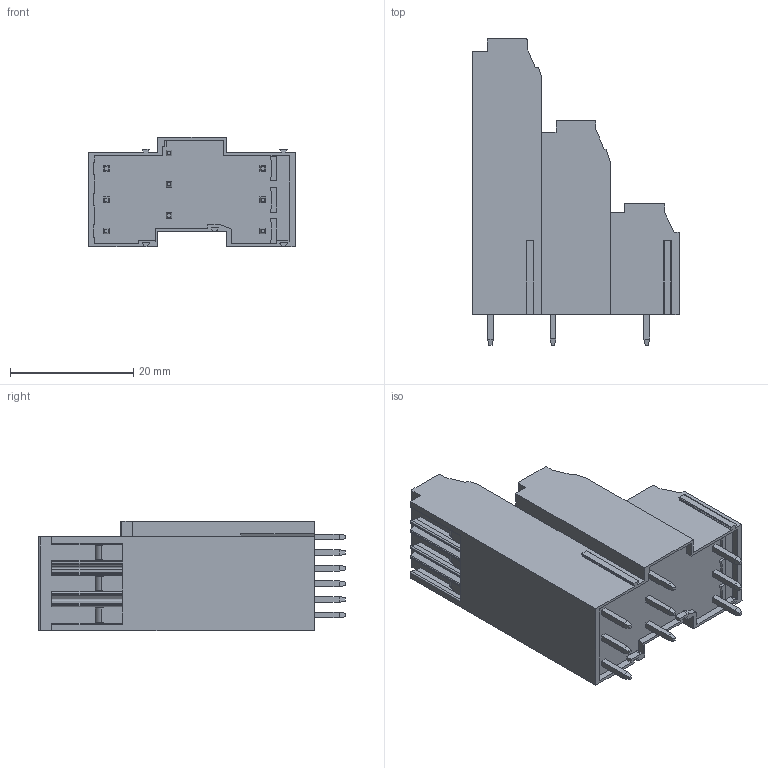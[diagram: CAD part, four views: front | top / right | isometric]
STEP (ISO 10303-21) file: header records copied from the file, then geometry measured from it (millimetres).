
FILE_DESCRIPTION((''),'2;1');
FILE_NAME('3PIN_SW0001','2019-05-30T',('zhenbing.lai'),(''),'CREO PARAMETRIC BY PTC INC, 2016260','CREO PARAMETRIC BY PTC INC, 2016260','');
FILE_SCHEMA(('CONFIG_CONTROL_DESIGN'));
Length unit declared in the file: millimetre
Products named in the file (1): 3PIN_SW0001
Bounding box: 33.6 x 49.8 x 17.78 mm (x, y, z)
Volume: 14414.5 mm3; surface area: 6389.2 mm2
Topology: 1 solids, 1 shells, 620 faces, 1668 edges, 1096 vertices
Faces by surface type: plane 378, cylinder 152, torus 54, cone 36
Entity records: 19650 total; most frequent: CARTESIAN_POINT 3600, DIRECTION 3400, ORIENTED_EDGE 3336, EDGE_CURVE 1668, AXIS2_PLACEMENT_3D 1148, VECTOR 1104, LINE 1104, VERTEX_POINT 1096
